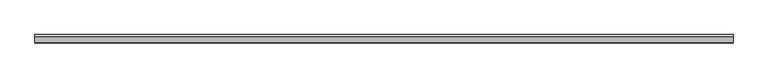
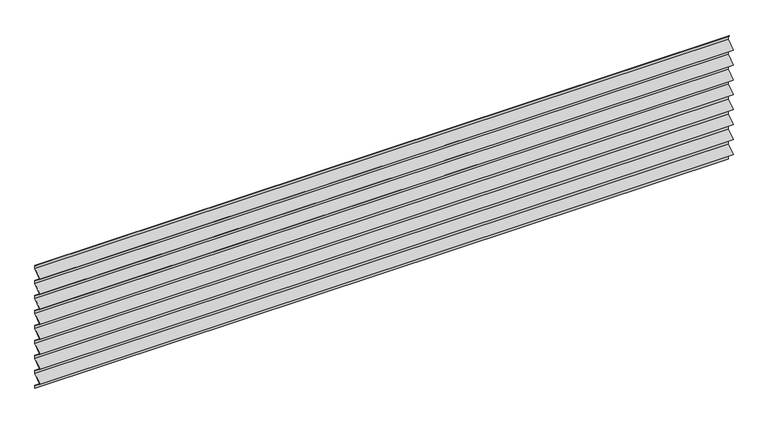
"""IFC4 building model written with IfcOpenShell, lengths in millimetres: plate geometry, HIANSA - H20.F09.008-CHAPA PERFILADA FACHADA HORIZONTAL - MT53MA8 - Panel de Muro Cortina : -."""

import ifcopenshell
import ifcopenshell.guid

model = None  # the IFC model being written
_history = None  # IfcOwnerHistory: only IFC2X3 demands one
_inside = {}  # id of a spatial element -> (the spatial element, [elements in it])
_under = {}  # id of a project, library or spatial element -> (it, [spatial elements below it])
_declared = {}  # id of a project -> (the project, [libraries it declares])
_typed = {}  # id of a type object -> (the type object, [elements of that type])
_made_of = {}  # id of a material, layer set ... -> (it, [elements and type objects made of it])


def new_model(schema):
    """Start an empty IFC model of exactly this schema.

    Asked for "IFC4X3", IfcOpenShell would pick the latest addendum, in which some entities
    have other attributes; the version numbers below select the first issue.
    IFC2X3 requires an IfcOwnerHistory on every rooted entity: one is made here for all.
    """
    global model, _history
    if schema == "IFC4X3":
        model = ifcopenshell.file(schema_version=(4, 3, 0, 0))
    else:
        model = ifcopenshell.file(schema=schema)
    _inside.clear()
    _under.clear()
    _declared.clear()
    _typed.clear()
    _made_of.clear()
    _history = None
    if model.schema == "IFC2X3":
        org = make("IfcOrganization", Name="unknown")
        user = make(
            "IfcPersonAndOrganization",
            ThePerson=make("IfcPerson", FamilyName="unknown"),
            TheOrganization=org,
        )
        app = make(
            "IfcApplication",
            ApplicationDeveloper=org,
            Version="unknown",
            ApplicationFullName="unknown",
            ApplicationIdentifier="unknown",
        )
        _history = make(
            "IfcOwnerHistory",
            OwningUser=user,
            OwningApplication=app,
            ChangeAction="ADDED",
            CreationDate=0,
        )
    return model


def make(cls, **values):
    """One entity of the class cls with the attributes given. An attribute that is None is left unset."""
    return model.create_entity(
        cls, **{name: value for name, value in values.items() if value is not None}
    )


def rooted(cls, **values):
    """An entity with a GlobalId (a new one), such as an element, a storey or a relation."""
    return make(cls, GlobalId=ifcopenshell.guid.new(), OwnerHistory=_history, **values)


def si_unit(unit_type, name, prefix=None):
    """IfcSIUnit, for example si_unit("LENGTHUNIT", "METRE", prefix="MILLI")."""
    return make("IfcSIUnit", UnitType=unit_type, Prefix=prefix, Name=name)


def assignment(units):
    """IfcUnitAssignment: the units of a project."""
    return None if units is None else make("IfcUnitAssignment", Units=units)


def point(xyz):
    """IfcCartesianPoint."""
    return None if xyz is None else make("IfcCartesianPoint", Coordinates=xyz)


def direction(xyz):
    """IfcDirection."""
    return None if xyz is None else make("IfcDirection", DirectionRatios=xyz)


def frame(location, z_axis=None, x_axis=None):
    """IfcAxis2Placement3D, a coordinate frame: its origin and axes. An axis left out is left unset."""
    return make(
        "IfcAxis2Placement3D",
        Location=point(location),
        Axis=direction(z_axis),
        RefDirection=direction(x_axis),
    )


def origin():
    """The frame at (0, 0, 0) with its axes left unset."""
    return frame((0.0, 0.0, 0.0))


def place(relative_to, where):
    """IfcLocalPlacement: puts the frame where relative to a parent placement (None: the world)."""
    return make(
        "IfcLocalPlacement", PlacementRelTo=relative_to, RelativePlacement=where
    )


def context(
    kind, dimensions, precision=None, world=None, true_north=None, identifier=None
):
    """IfcGeometricRepresentationContext, for example the 3D "Model" context."""
    return make(
        "IfcGeometricRepresentationContext",
        ContextIdentifier=identifier,
        ContextType=kind,
        CoordinateSpaceDimension=dimensions,
        Precision=precision,
        WorldCoordinateSystem=world,
        TrueNorth=true_north,
    )


def project(units=None, contexts=None):
    """IfcProject with its units and contexts."""
    return rooted(
        "IfcProject",
        Name="project",
        RepresentationContexts=contexts,
        UnitsInContext=assignment(units),
    )


def spatial(cls, under=None, at=None, **own):
    """A site, building, storey or space (cls), placed at a placement, below another one or the project."""
    s = rooted(cls, ObjectPlacement=at, **own)
    if under is not None:
        _under.setdefault(under.id(), (under, []))[1].append(s)
    return s


def polyline(points):
    """IfcPolyline through the points."""
    return make("IfcPolyline", Points=[point(p) for p in points])


def outline(outer, holes=None, kind="AREA"):
    """IfcArbitraryClosedProfileDef: a profile drawn as a closed curve; with holes, ...WithVoids."""
    if holes is None:
        return make("IfcArbitraryClosedProfileDef", ProfileType=kind, OuterCurve=outer)
    return make(
        "IfcArbitraryProfileDefWithVoids",
        ProfileType=kind,
        OuterCurve=outer,
        InnerCurves=holes,
    )


def extrude(swept, where, along, depth):
    """IfcExtrudedAreaSolid: the profile swept, set in the frame where, extruded along a direction by depth."""
    return make(
        "IfcExtrudedAreaSolid",
        SweptArea=swept,
        Position=where,
        ExtrudedDirection=direction(along),
        Depth=depth,
    )


def shape(context_of_items, identifier, shape_type, items):
    """IfcShapeRepresentation: the items that make up one representation, for example the "Body"."""
    return make(
        "IfcShapeRepresentation",
        ContextOfItems=context_of_items,
        RepresentationIdentifier=identifier,
        RepresentationType=shape_type,
        Items=items,
    )


def source(mapping_origin, context_of_items, identifier, shape_type, items):
    """IfcRepresentationMap: a shape defined once, which mapped items show again and again."""
    return make(
        "IfcRepresentationMap",
        MappingOrigin=mapping_origin,
        MappedRepresentation=shape(context_of_items, identifier, shape_type, items),
    )


def transform(
    local_origin,
    x_axis=None,
    y_axis=None,
    z_axis=None,
    scale=None,
    scale2=None,
    scale3=None,
    uniform=True,
):
    """IfcCartesianTransformationOperator3D, or its non-uniform kind. x_axis, y_axis, z_axis: its Axis1, 2, 3."""
    if uniform:
        return make(
            "IfcCartesianTransformationOperator3D",
            Axis1=direction(x_axis),
            Axis2=direction(y_axis),
            LocalOrigin=point(local_origin),
            Scale=scale,
            Axis3=direction(z_axis),
        )
    return make(
        "IfcCartesianTransformationOperator3DnonUniform",
        Axis1=direction(x_axis),
        Axis2=direction(y_axis),
        LocalOrigin=point(local_origin),
        Scale=scale,
        Axis3=direction(z_axis),
        Scale2=scale2,
        Scale3=scale3,
    )


def mapped(mapping_source, mapping_target):
    """IfcMappedItem: shows the shape of a source again, moved by a transform."""
    return make(
        "IfcMappedItem", MappingSource=mapping_source, MappingTarget=mapping_target
    )


def made_of(thing, what):
    """Note that an element or type object is made of a material, layer set ...; save() writes the relation."""
    if what is not None:
        _made_of.setdefault(what.id(), (what, []))[1].append(thing)
    return thing


def element(
    cls,
    number,
    at=None,
    inside=None,
    cuts=None,
    type_object=None,
    material=None,
    context=None,
    identifier="Body",
    shape_type=None,
    held_by="IfcProductDefinitionShape",
    body=None,
    shapes=None,
    **own,
):
    """One element of the class cls, such as IfcWall. Its Tag is "e" and its number.

    at: its placement. inside: the storey or other place that contains it. cuts: it is an
    opening in that element (IfcRelVoidsElement). A single representation is given by context,
    identifier, shape_type and body (its items); several are given by shapes. held_by: the class
    of the entity that holds the representations. save() writes the other relations.
    """
    e = rooted(cls, Tag="e%d" % number, ObjectPlacement=at, **own)
    if body is not None:
        shapes = [shape(context, identifier, shape_type, body)]
    if shapes is not None:
        e.Representation = make(held_by, Representations=shapes)
    if inside is not None:
        _inside.setdefault(inside.id(), (inside, []))[1].append(e)
    if cuts is not None:
        rooted(
            "IfcRelVoidsElement", RelatingBuildingElement=cuts, RelatedOpeningElement=e
        )
    if type_object is not None:
        _typed.setdefault(type_object.id(), (type_object, []))[1].append(e)
    return made_of(e, material)


def aggregate(whole, parts):
    """IfcRelAggregates: a whole, such as a stair, and the parts it consists of."""
    return rooted("IfcRelAggregates", RelatingObject=whole, RelatedObjects=parts)


def save(model, path):
    """Write the relations noted so far, then the file.

    IfcRelAggregates (storeys below a building ...), IfcRelContainedInSpatialStructure (elements
    in a storey), IfcRelDefinesByType, IfcRelAssociatesMaterial and IfcRelDeclares: one each for
    every whole, place, type object, material and project.
    """
    for whole, parts in _under.values():
        aggregate(whole, parts)
    for where, things in _inside.values():
        rooted(
            "IfcRelContainedInSpatialStructure",
            RelatedElements=things,
            RelatingStructure=where,
        )
    for kind, things in _typed.values():
        rooted("IfcRelDefinesByType", RelatedObjects=things, RelatingType=kind)
    for what, things in _made_of.values():
        rooted("IfcRelAssociatesMaterial", RelatedObjects=things, RelatingMaterial=what)
    for by, libraries in _declared.values():
        rooted("IfcRelDeclares", RelatingContext=by, RelatedDefinitions=libraries)
    model.write(path)


def plate_efeca091(model_context):
    return source(origin(), model_context, "Body", "SweptSolid", [
        extrude(outline(polyline([(0.0, 814.1844986), (0.0, 793.3968142), (-51.7949608, 753.5414328), (0.0, 713.6860514), (0.0, 692.898367), (-51.7949608, 653.0429856), (0.0, 613.1876043), (0.0, 592.3999198), (-51.7949608, 552.5445384), (0.0, 512.6891571), (0.0, 491.9014726), (-51.7949608, 452.0460912), (0.0, 412.1907099), (0.0, 391.4030254), (-51.7949608, 351.5476441), (0.0, 311.6922627), (0.0, 290.9045782), (-51.7949608, 251.0491969), (0.0, 211.1938155), (0.0, 190.4061311), (-51.7949608, 150.5507497), (0.0, 110.6953683), (0.0, 89.9076839), (-51.7949608, 50.0523025), (0.0, 10.1969211), (0.0, -10.1969211), (-0.8, -10.1969211), (-0.8, 9.8030789), (-53.1067873, 50.0523025), (-0.8, 90.3015261), (-0.8, 110.3015261), (-53.1067873, 150.5507497), (-0.8, 190.7999733), (-0.8, 210.7999733), (-53.1067873, 251.0491969), (-0.8, 291.2984205), (-0.8, 311.2984205), (-53.1067873, 351.5476441), (-0.8, 391.7968677), (-0.8, 411.7968677), (-53.1067873, 452.0460912), (-0.8, 492.2953148), (-0.8, 512.2953148), (-53.1067873, 552.5445384), (-0.8, 592.793762), (-0.8, 612.793762), (-53.1067873, 653.0429856), (-0.8, 693.2922092), (-0.8, 713.2922092), (-53.1067873, 753.5414328), (-0.8, 793.7906564), (-0.8, 813.7906564), (-11.8953791, 822.3283705), (-11.4075098, 822.9623922), (0.0, 814.1844986)])), frame((-2200.0, 0.0, 0.0), z_axis=(1.0, 0.0, 0.0), x_axis=(0.0, 1.0, 0.0)), (0.0, 0.0, 1.0), 4400.0),
    ])


if __name__ == "__main__":
    model = new_model("IFC4")
    model_context = context("Model", 3, world=origin())
    ifc_project = project(units=[si_unit("LENGTHUNIT", "METRE", prefix="MILLI")], contexts=[model_context])
    site = spatial("IfcSite", under=ifc_project)
    building = spatial("IfcBuilding", under=site)
    placement = place(None, origin())
    plate_shape = plate_efeca091(model_context)
    element("IfcPlate", 1, ObjectType="HIANSA - H20.F09.008-CHAPA PERFILADA FACHADA HORIZONTAL - MT53MA8 - Panel de Muro Cortina : -", at=placement, inside=building, context=model_context, shape_type="MappedRepresentation", body=[
        mapped(plate_shape, transform((0.0, 0.0, 0.0), x_axis=(1.0, 0.0, 0.0), y_axis=(0.0, 1.0, 0.0), z_axis=(0.0, 0.0, 1.0))),
    ])
    save(model, "model.ifc")
